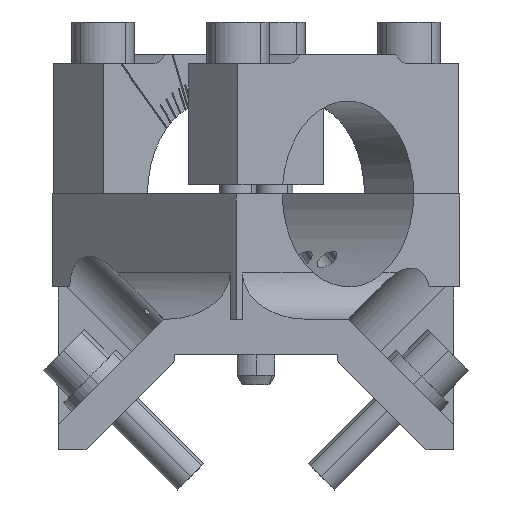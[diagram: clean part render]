
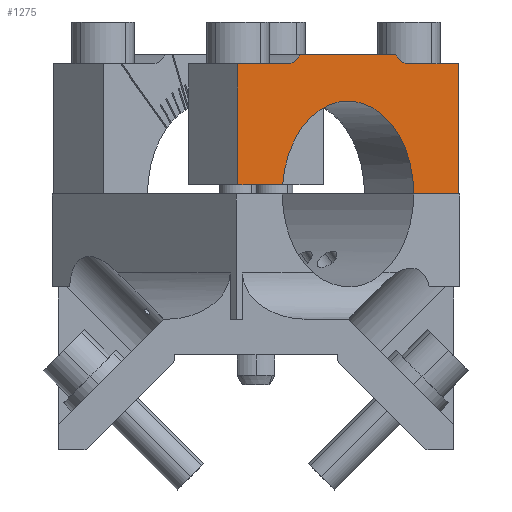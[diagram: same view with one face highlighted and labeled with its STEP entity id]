
A CAD part, left-side view. The second image highlights one B-rep face of the part: STEP entity #1275.
In plain terms, the highlighted planar face has unit normal (-0.707, -0.707, 0).
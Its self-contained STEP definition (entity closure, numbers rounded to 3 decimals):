
#1275=ADVANCED_FACE('Solid.179',(#2716),#2717,.T.);
#2716=FACE_OUTER_BOUND('',#4378,.T.);
#2717=PLANE('',#4379);
#4378=EDGE_LOOP('',(#7820,#7821,#7822,#7823,#7824,#7825,#7826,#7827,#7828,#7829));
#4379=AXIS2_PLACEMENT_3D('',#7830,#7831,#7832);
#7820=ORIENTED_EDGE('',*,*,#10697,.T.);
#7821=ORIENTED_EDGE('',*,*,#10680,.T.);
#7822=ORIENTED_EDGE('',*,*,#10698,.T.);
#7823=ORIENTED_EDGE('',*,*,#10685,.T.);
#7824=ORIENTED_EDGE('',*,*,#10699,.T.);
#7825=ORIENTED_EDGE('',*,*,#10690,.T.);
#7826=ORIENTED_EDGE('',*,*,#10700,.T.);
#7827=ORIENTED_EDGE('',*,*,#10695,.T.);
#7828=ORIENTED_EDGE('',*,*,#10701,.T.);
#7829=ORIENTED_EDGE('',*,*,#10702,.T.);
#7830=CARTESIAN_POINT('',(-19.799,-19.799,55.));
#7831=DIRECTION('',(-0.707,-0.707,0.));
#7832=DIRECTION('',(0.707,-0.707,0.));
#10680=EDGE_CURVE('',#12968,#12973,#12975,.T.);
#10685=EDGE_CURVE('',#12977,#12982,#12984,.F.);
#10690=EDGE_CURVE('',#12986,#12991,#12993,.F.);
#10695=EDGE_CURVE('',#12995,#13000,#13002,.T.);
#10697=EDGE_CURVE('',#13004,#12968,#13005,.T.);
#10698=EDGE_CURVE('',#12973,#12977,#13006,.T.);
#10699=EDGE_CURVE('',#12982,#12986,#13007,.T.);
#10700=EDGE_CURVE('',#12991,#12995,#13008,.T.);
#10701=EDGE_CURVE('',#13000,#13009,#13010,.T.);
#10702=EDGE_CURVE('',#13009,#13004,#13011,.F.);
#12968=VERTEX_POINT('',#17603);
#12973=VERTEX_POINT('',#17610);
#12975=LINE('',#17613,#17614);
#12977=VERTEX_POINT('',#17616);
#12982=VERTEX_POINT('',#17622);
#12984=CIRCLE('',#17625,5.0);
#12986=VERTEX_POINT('',#17627);
#12991=VERTEX_POINT('',#17633);
#12993=CIRCLE('',#17636,5.0);
#12995=VERTEX_POINT('',#17638);
#13000=VERTEX_POINT('',#17645);
#13002=LINE('',#17648,#17649);
#13004=VERTEX_POINT('',#17651);
#13005=LINE('',#17652,#17653);
#13006=LINE('',#17654,#17655);
#13007=LINE('',#17656,#17657);
#13008=LINE('',#17658,#17659);
#13009=VERTEX_POINT('',#17660);
#13010=LINE('',#17661,#17662);
#13011=CIRCLE('',#17663,20.0);
#17603=CARTESIAN_POINT('',(3.889,-43.487,55.));
#17610=CARTESIAN_POINT('',(3.889,-43.487,83.));
#17613=CARTESIAN_POINT('',(3.889,-43.487,69.));
#17614=VECTOR('',#20051,1.0);
#17616=CARTESIAN_POINT('',(-6.718,-32.88,83.));
#17622=CARTESIAN_POINT('',(-9.546,-30.052,85.));
#17625=AXIS2_PLACEMENT_3D('',#20057,#20058,#20059);
#17627=CARTESIAN_POINT('',(-30.052,-9.546,85.));
#17633=CARTESIAN_POINT('',(-32.88,-6.718,83.));
#17636=AXIS2_PLACEMENT_3D('',#20065,#20066,#20067);
#17638=CARTESIAN_POINT('',(-43.487,3.889,83.0));
#17645=CARTESIAN_POINT('',(-43.487,3.889,57.));
#17648=CARTESIAN_POINT('',(-43.487,3.889,70.));
#17649=VECTOR('',#20071,1.0);
#17651=CARTESIAN_POINT('',(-5.657,-33.941,55.));
#17652=CARTESIAN_POINT('',(-0.884,-38.714,55.));
#17653=VECTOR('',#20072,1.0);
#17654=CARTESIAN_POINT('',(-1.414,-38.184,83.));
#17655=VECTOR('',#20073,1.0);
#17656=CARTESIAN_POINT('',(-19.799,-19.799,85.));
#17657=VECTOR('',#20074,1.0);
#17658=CARTESIAN_POINT('',(-38.184,-1.414,83.));
#17659=VECTOR('',#20075,1.0);
#17660=CARTESIAN_POINT('',(-33.87,-5.728,57.));
#17661=CARTESIAN_POINT('',(-38.679,-0.919,57.));
#17662=VECTOR('',#20076,1.0);
#17663=AXIS2_PLACEMENT_3D('',#20077,#20078,#20079);
#20051=DIRECTION('',(0.,0.,1.0));
#20057=CARTESIAN_POINT('',(-6.718,-32.88,88.));
#20058=DIRECTION('',(-0.707,-0.707,0.));
#20059=DIRECTION('',(0.707,-0.707,0.));
#20065=CARTESIAN_POINT('',(-32.88,-6.718,88.));
#20066=DIRECTION('',(-0.707,-0.707,0.));
#20067=DIRECTION('',(0.707,-0.707,0.));
#20071=DIRECTION('',(0.,0.,-1.0));
#20072=DIRECTION('',(0.707,-0.707,0.));
#20073=DIRECTION('',(-0.707,0.707,0.));
#20074=DIRECTION('',(-0.707,0.707,0.));
#20075=DIRECTION('',(-0.707,0.707,0.));
#20076=DIRECTION('',(0.707,-0.707,0.));
#20077=CARTESIAN_POINT('',(-19.799,-19.799,55.));
#20078=DIRECTION('',(-0.707,-0.707,0.));
#20079=DIRECTION('',(0.707,-0.707,0.));
